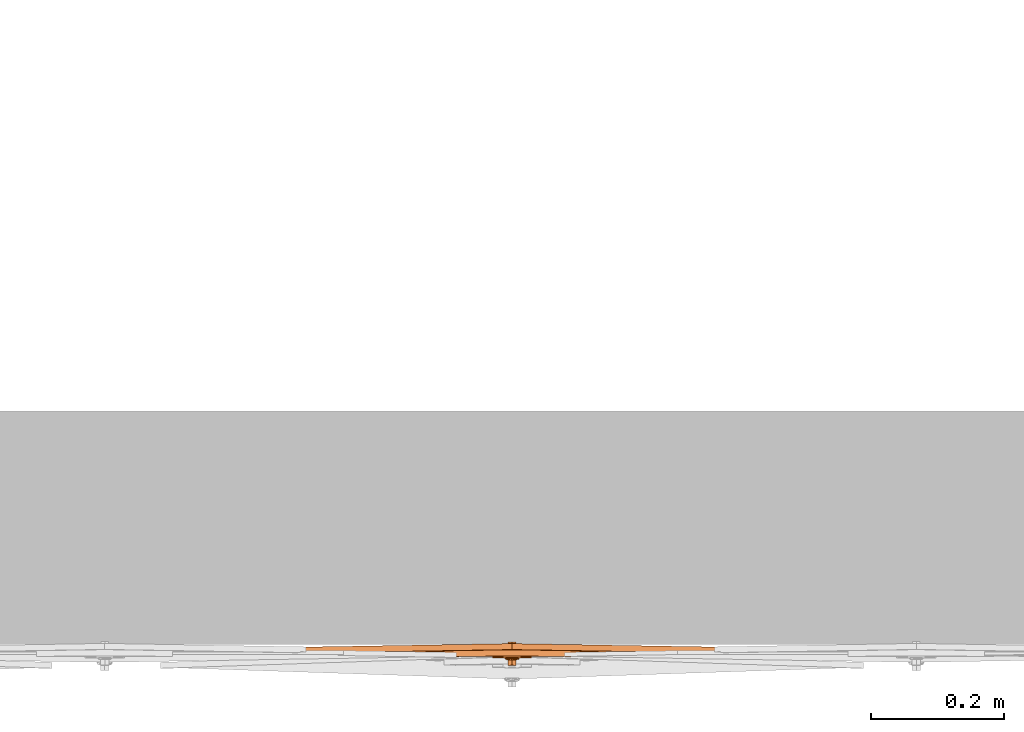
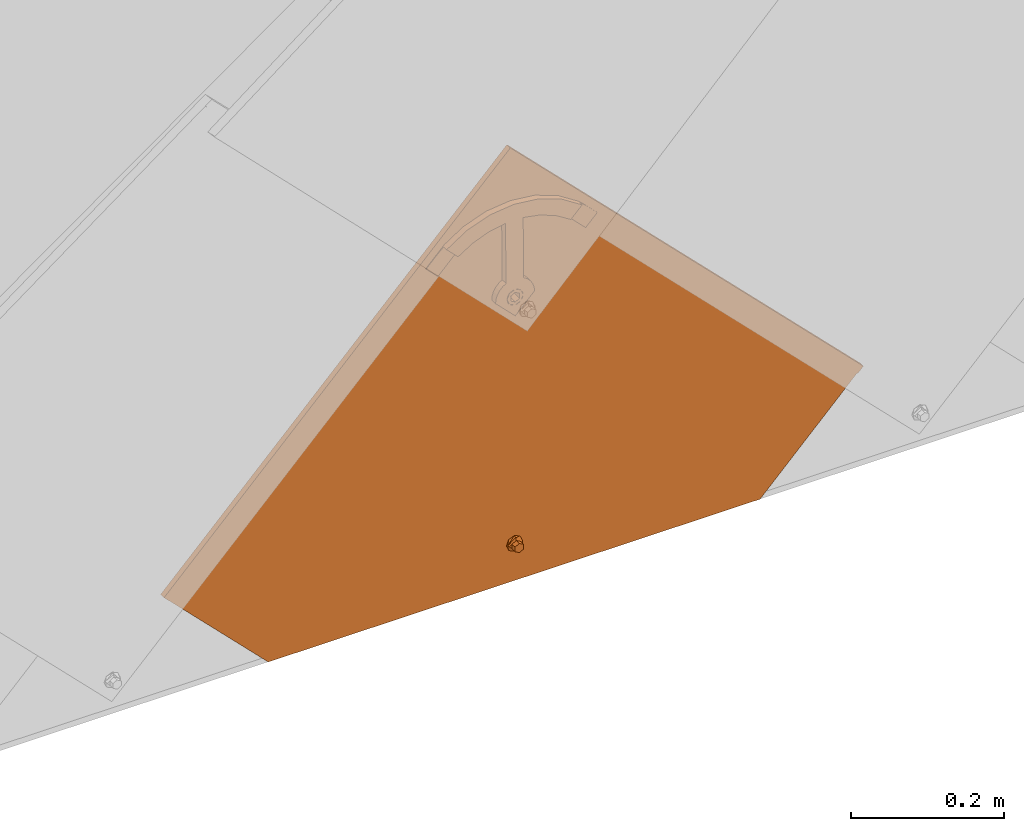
# One storey, part 5 of 151: 1 proxy.
"""IFC2X3 building model written with IfcOpenShell, lengths in millimetres."""

from ifc_helpers import new_model, entity, si_unit, converted_unit, derived_unit, direction, frame, origin, place, context, subcontext, project, spatial, faceted_brep, source, transform, mapped, material, material_list, type_object, type_shapes, element, save


model = new_model("IFC2X3")

# Units and contexts
model_context = context("Model", 3, precision=0.01, world=origin(), true_north=direction((6.12303176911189e-17, 1.0)))
body_context = subcontext(model_context, "Body", "Model", "MODEL_VIEW")
ifc_project = project(units=[si_unit("LENGTHUNIT", "METRE", prefix="MILLI"), si_unit("AREAUNIT", "SQUARE_METRE"), si_unit("VOLUMEUNIT", "CUBIC_METRE"), converted_unit("PLANEANGLEUNIT", "DEGREE", entity("IfcRatioMeasure", 0.0174532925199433), si_unit("PLANEANGLEUNIT", "RADIAN"), dimensions=[0, 0, 0, 0, 0, 0, 0]), si_unit("MASSUNIT", "GRAM", prefix="KILO"), derived_unit("MASSDENSITYUNIT", [(si_unit("MASSUNIT", "GRAM", prefix="KILO"), 1), (si_unit("LENGTHUNIT", "METRE"), -3)]), si_unit("TIMEUNIT", "SECOND"), si_unit("FREQUENCYUNIT", "HERTZ"), si_unit("THERMODYNAMICTEMPERATUREUNIT", "DEGREE_CELSIUS"), derived_unit("THERMALTRANSMITTANCEUNIT", [(si_unit("MASSUNIT", "GRAM", prefix="KILO"), 1), (si_unit("THERMODYNAMICTEMPERATUREUNIT", "KELVIN"), -1), (si_unit("TIMEUNIT", "SECOND"), -3)]), derived_unit("VOLUMETRICFLOWRATEUNIT", [(si_unit("LENGTHUNIT", "METRE"), 3), (si_unit("TIMEUNIT", "SECOND"), -1)]), si_unit("ELECTRICCURRENTUNIT", "AMPERE"), si_unit("ELECTRICVOLTAGEUNIT", "VOLT"), si_unit("POWERUNIT", "WATT"), si_unit("FORCEUNIT", "NEWTON", prefix="KILO"), si_unit("ILLUMINANCEUNIT", "LUX"), si_unit("LUMINOUSFLUXUNIT", "LUMEN"), si_unit("LUMINOUSINTENSITYUNIT", "CANDELA"), derived_unit("USERDEFINED", [(si_unit("MASSUNIT", "GRAM", prefix="KILO"), -1), (si_unit("LENGTHUNIT", "METRE"), -2), (si_unit("TIMEUNIT", "SECOND"), 3), (si_unit("LUMINOUSFLUXUNIT", "LUMEN"), 1)]), derived_unit("LINEARVELOCITYUNIT", [(si_unit("LENGTHUNIT", "METRE"), 1), (si_unit("TIMEUNIT", "SECOND"), -1)]), si_unit("PRESSUREUNIT", "PASCAL"), derived_unit("USERDEFINED", [(si_unit("LENGTHUNIT", "METRE"), -2), (si_unit("MASSUNIT", "GRAM", prefix="KILO"), 1), (si_unit("TIMEUNIT", "SECOND"), -2)])], contexts=[model_context])

# Site, building, storey
site_placement = place(None, origin())
site = spatial("IfcSite", under=ifc_project, at=site_placement, Name="Default", CompositionType="ELEMENT")
building_placement = place(site_placement, origin())
building = spatial("IfcBuilding", under=site, at=building_placement, CompositionType="ELEMENT")
storey_placement = place(building_placement, origin())
storey = spatial("IfcBuildingStorey", under=building, at=storey_placement, Name="Level 1", CompositionType="ELEMENT", Elevation=0.0)

# Proxy
ifc_material_1 = material(Name="Rubber - Sunstyle - Black")
ifc_material_2 = material(Name="Glass - Sunstyle - Tainted Terracotta")
ifc_material_list_1 = material_list([ifc_material_1, ifc_material_2])
ifc_material_list_2 = material_list([ifc_material_1, ifc_material_2])
building_element_proxy_type = type_object("IfcBuildingElementProxyType", Name="Shingle Bottom - Terracotta", PredefinedType="NOTDEFINED", material=ifc_material_list_2)
shared_shape = source(origin(), body_context, "Body", "Brep", [
    faceted_brep([(0.0, -1.79273515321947, -4.01619789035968), (-5.7742028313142, -5.12600528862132, -3.96037390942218), (-5.77420283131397, -4.75769619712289, 18.0314954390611), (0.0, -1.42442606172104, 17.9756714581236), (-5.77420283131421, -11.792545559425, -3.84872594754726), (-5.77420283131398, -11.4242364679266, 18.143143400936), (0.0, -15.1258156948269, -3.79290196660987), (0.0, -14.7575066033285, 18.1989673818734), (5.77420283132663, -11.7925455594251, -3.84872594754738), (5.77420283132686, -11.4242364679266, 18.1431434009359), (5.77420283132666, -5.12600528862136, -3.96037390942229), (5.77420283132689, -4.75769619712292, 18.031495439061), (-8.60370416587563, -16.6934641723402, 18.2313898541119), (0.0, -20.2567354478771, 18.2910657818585), (-12.1674751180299, -8.09096633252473, 18.0873194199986), (-8.60370416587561, 0.511531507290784, 17.9432489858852), (0.0, 4.07480278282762, 17.8835730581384), (8.60370416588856, 0.511531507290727, 17.9432489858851), (12.1674751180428, -8.09096633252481, 18.0873194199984), (8.60370416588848, -16.6934641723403, 18.2313898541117), (-11.4302228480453, -6.71737066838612, 20.4858706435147), (-9.77051349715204, -8.02009729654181, 22.3189355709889), (0.0, -0.706876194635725, 22.9603444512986), (0.0, 0.533621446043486, 22.3799978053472), (0.0, 2.69117229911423, 21.3706227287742), (-6.32324569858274, -4.35709193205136, 23.021476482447), (-6.32324569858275, -11.6575234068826, 23.1437405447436), (0.0, -18.7571148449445, 21.7298281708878), (0.0, -15.3077391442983, 23.2048725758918), (10.9851748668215, -11.808022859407, 20.3827540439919), (10.123850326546, -8.02413622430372, 22.0777687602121), (6.32324569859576, -4.3570919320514, 23.0214764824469), (6.32324569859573, -11.6575234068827, 23.1437405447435), (-6.32324569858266, -11.5234949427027, 31.146628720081), (0.0, -15.1737106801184, 31.2077607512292), (0.0, -7.8732792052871, 31.0854966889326), (-6.32324569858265, -4.22306346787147, 31.0243646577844), (6.32324569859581, -11.5234949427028, 31.1466287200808), (6.32324569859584, -4.22306346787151, 31.0243646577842), (0.0, -0.57284773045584, 30.963232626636), (0.0, -8.45927542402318, -3.90454992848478)], [[[0, 1, 2, 3]], [[1, 4, 5, 2]], [[4, 6, 7, 5]], [[6, 8, 9, 7]], [[8, 10, 11, 9]], [[10, 0, 3, 11]], [[12, 7, 13]], [[7, 12, 5]], [[14, 5, 12]], [[5, 14, 2]], [[15, 2, 14]], [[3, 2, 15]], [[15, 16, 3]], [[16, 17, 3]], [[11, 3, 17]], [[11, 17, 18]], [[9, 11, 18]], [[18, 19, 9]], [[7, 9, 19]], [[19, 13, 7]], [[15, 20, 16]], [[21, 22, 23, 24]], [[22, 21, 25]], [[20, 14, 12]], [[15, 14, 20]], [[25, 21, 26]], [[20, 24, 16]], [[12, 13, 27]], [[12, 27, 20]], [[21, 28, 26]], [[21, 27, 28]], [[20, 21, 24]], [[20, 27, 21]], [[19, 29, 13]], [[30, 23, 31]], [[30, 28, 27]], [[24, 23, 30]], [[29, 27, 13]], [[19, 18, 29]], [[29, 30, 27]], [[29, 17, 24]], [[24, 17, 16]], [[31, 32, 30]], [[23, 22, 31]], [[28, 30, 32]], [[29, 24, 30]], [[29, 18, 17]], [[33, 34, 35]], [[35, 36, 33]], [[34, 37, 35]], [[38, 35, 37]], [[35, 38, 39]], [[35, 39, 36]], [[40, 6, 4]], [[4, 1, 40]], [[1, 0, 40]], [[40, 8, 6]], [[0, 10, 40]], [[8, 40, 10]], [[22, 25, 36, 39]], [[25, 26, 33, 36]], [[26, 28, 34, 33]], [[28, 32, 37, 34]], [[32, 31, 38, 37]], [[31, 22, 39, 38]]]),
    faceted_brep([(0.0, 372.824876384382, 20.3195200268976), (0.0, 377.324245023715, 20.2441667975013), (-8.60370416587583, 376.388147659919, 20.2598440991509), (8.60370416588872, 376.388147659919, 20.2598440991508), (6.64022859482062, 381.157445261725, 20.1799702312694), (12.1674751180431, 384.990645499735, 20.1157736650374), (6.64022859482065, 388.823845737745, 20.0515770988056), (8.6037041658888, 393.59314333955, 19.9717032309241), (0.0, 392.657045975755, 19.9873805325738), (0.0, 397.156414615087, 19.9120273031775), (-8.60370416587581, 393.59314333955, 19.9717032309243), (-6.64022859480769, 388.823845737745, 20.0515770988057), (-12.1674751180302, 384.990645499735, 20.1157736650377), (-6.6402285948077, 381.157445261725, 20.1799702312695), (-6.6402282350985, 388.555922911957, 4.05382046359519), (0.0, 392.389122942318, 3.98962390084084), (-6.64022823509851, 380.889522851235, 4.18221358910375), (0.0, 377.056322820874, 4.24641015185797), (6.64022823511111, 380.889522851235, 4.18221358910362), (6.64022823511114, 388.555922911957, 4.05382046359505), (-8.603704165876, 376.12022504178, 4.26208746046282), (0.0, 372.556953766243, 4.32176338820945), (-12.1674751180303, 384.722722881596, 4.11801702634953), (-8.60370416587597, 393.325220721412, 3.97394659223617), (0.0, 396.888491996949, 3.91427066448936), (8.60370416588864, 393.325220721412, 3.97394659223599), (12.1674751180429, 384.722722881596, 4.11801702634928), (8.60370416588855, 376.12022504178, 4.26208746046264)], [[[0, 1, 2]], [[1, 0, 3]], [[3, 4, 1]], [[4, 3, 5]], [[6, 4, 5]], [[5, 7, 6]], [[7, 8, 6]], [[8, 7, 9]], [[8, 9, 10]], [[10, 11, 8]], [[12, 11, 10]], [[2, 13, 12]], [[12, 13, 11]], [[13, 2, 1]], [[8, 11, 14, 15]], [[11, 13, 16, 14]], [[13, 1, 17, 16]], [[1, 4, 18, 17]], [[4, 6, 19, 18]], [[6, 8, 15, 19]], [[20, 17, 21]], [[17, 20, 16]], [[22, 16, 20]], [[14, 16, 22]], [[23, 14, 22]], [[15, 14, 23]], [[23, 24, 15]], [[24, 25, 15]], [[19, 15, 25]], [[19, 25, 26]], [[26, 18, 19]], [[26, 27, 18]], [[17, 18, 27]], [[27, 21, 17]], [[24, 23, 10, 9]], [[10, 23, 22, 12]], [[20, 21, 0, 2]], [[20, 2, 12, 22]], [[21, 27, 3, 0]], [[3, 27, 26, 5]], [[25, 24, 9, 7]], [[25, 7, 5, 26]]]),
    faceted_brep([(518.247351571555, 79.9143812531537, 14.965257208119), (526.732038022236, 88.3990677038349, 14.8231598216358), (526.732038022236, 88.4241854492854, 16.3229495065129), (518.247351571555, 79.9394989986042, 16.4650468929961), (0.000322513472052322, 598.016093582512, 6.28834266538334), (-518.246706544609, 79.9143812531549, 14.9652572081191), (-526.73139299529, 88.3990677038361, 14.8231598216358), (0.000322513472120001, 614.983087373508, 6.00418773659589), (0.000322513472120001, 615.008205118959, 7.50397742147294), (-526.731392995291, 88.4241854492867, 16.3229495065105), (-518.246706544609, 79.9394989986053, 16.465046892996), (0.000322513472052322, 598.041211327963, 7.78813235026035)], [[[0, 1, 2, 3]], [[1, 0, 4, 5, 6, 7]], [[2, 1, 7, 8]], [[3, 2, 8, 9, 10, 11]], [[0, 3, 11, 4]], [[5, 10, 9, 6]], [[8, 7, 6, 9]], [[4, 11, 10, 5]]]),
    faceted_brep([(0.00032251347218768, 614.983087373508, 6.00418773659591), (-2.87802047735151, 396.187349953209, 9.66847193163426), (0.227808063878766, 396.596182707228, 9.6616250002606), (-5.77219193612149, 394.988712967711, 9.68854611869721), (3.3336366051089, 396.187349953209, 9.66847193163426), (6.22780806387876, 394.988712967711, 9.6885461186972), (8.71308943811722, 393.081956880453, 9.72047953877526), (10.620112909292, 390.59702396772, 9.76209598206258), (-8.25747331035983, 393.081956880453, 9.72047953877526), (-10.1644967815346, 390.59702396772, 9.76209598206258), (-11.3633018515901, 387.703258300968, 9.81055935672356), (-526.731392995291, 88.3990677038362, 14.8231598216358), (11.8189179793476, 387.703258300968, 9.81055935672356), (526.732038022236, 88.3990677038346, 14.8231598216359), (-11.7721919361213, 384.597865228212, 9.86256696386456), (-11.3633018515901, 381.492472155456, 9.91457457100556), (-10.1644967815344, 378.598706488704, 9.96303794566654), (-370.355016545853, -67.9334607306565, 17.4413406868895), (-8.25747331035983, 376.113773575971, 10.0046543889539), (-5.65685424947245, -2.29422365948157, 16.3420467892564), (-6.92820323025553, -3.95084560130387, 16.3697910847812), (-7.72740661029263, -5.88002271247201, 16.4021000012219), (-8.0, -7.95028476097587, 16.4367717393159), (-7.72740661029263, -10.0205468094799, 16.4714434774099), (-6.9282032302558, -11.9497239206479, 16.5037523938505), (-5.65685424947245, -13.6063458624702, 16.5314966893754), (-4.0, -14.8775165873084, 16.5527856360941), (-2.07055236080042, -15.676607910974, 16.5661684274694), (0.0, -15.9491630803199, 16.5707330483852), (370.355661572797, -67.9334607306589, 17.4413406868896), (10.620112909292, 378.598706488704, 9.96303794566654), (8.71308943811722, 376.11377357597, 10.0046543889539), (5.65685424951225, -2.29422365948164, 16.3420467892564), (6.92820323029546, -3.9508456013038, 16.3697910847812), (7.72740661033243, -5.88002271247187, 16.4021000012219), (8.0, -7.9502847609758, 16.4367717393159), (7.72740661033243, -10.0205468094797, 16.4714434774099), (6.92820323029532, -11.9497239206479, 16.5037523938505), (5.65685424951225, -13.6063458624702, 16.5314966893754), (4.0, -14.8775165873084, 16.5527856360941), (2.07055236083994, -15.676607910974, 16.5661684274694), (-5.77219193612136, 374.207017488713, 10.0365878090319), (-4.0, -1.02305293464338, 16.3207578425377), (-2.87802047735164, 373.008380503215, 10.0566619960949), (-2.07055236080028, -0.223961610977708, 16.3073750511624), (0.227808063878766, 372.599547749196, 10.0635089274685), (0.0, 0.0485935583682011, 16.3028104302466), (2.07055236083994, -0.223961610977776, 16.3073750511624), (3.3336366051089, 373.008380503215, 10.0566619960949), (4.0, -1.02305293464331, 16.3207578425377), (6.22780806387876, 374.207017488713, 10.0365878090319), (12.2278080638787, 384.597865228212, 9.86256696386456), (11.8189179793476, 381.492472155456, 9.91457457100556), (-370.355016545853, -68.059049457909, 9.94239226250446), (-6.92820323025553, -4.07643432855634, 8.87084266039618), (-7.72740661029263, -6.00561143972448, 8.90315157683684), (-8.0, -8.07587348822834, 8.93782331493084), (-7.72740661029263, -10.1461355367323, 8.97249505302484), (-6.9282032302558, -12.0753126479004, 9.00480396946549), (-5.65685424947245, -13.7319345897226, 9.03254826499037), (-5.65685424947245, -2.41981238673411, 8.8430983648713), (-8.25747331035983, 375.988184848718, 2.50570596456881), (-4.0, -15.0031053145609, 9.05383721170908), (-2.07055236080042, -15.8021966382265, 9.06722000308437), (0.0, -16.0747518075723, 9.07178462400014), (370.355661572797, -68.0590494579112, 9.9423922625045), (-10.1644967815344, 378.473117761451, 2.46408952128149), (-526.731392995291, 88.2734789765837, 7.32421139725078), (-11.3633018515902, 381.366883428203, 2.41562614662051), (-11.7721919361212, 384.472276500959, 2.36361853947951), (-11.3633018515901, 387.577669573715, 2.3116109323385), (0.00032251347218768, 614.857498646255, -1.49476068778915), (-10.1644967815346, 390.471435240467, 2.26314755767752), (-8.25747331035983, 392.956368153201, 2.22153111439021), (-5.77219193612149, 394.863124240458, 2.18959769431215), (-2.87802047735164, 396.061761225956, 2.16952350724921), (0.227808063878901, 396.470593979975, 2.16267657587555), (3.3336366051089, 396.061761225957, 2.1695235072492), (6.22780806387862, 394.863124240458, 2.18959769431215), (8.71308943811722, 392.956368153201, 2.2215311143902), (10.620112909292, 390.471435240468, 2.26314755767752), (11.8189179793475, 387.577669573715, 2.31161093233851), (526.732038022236, 88.2734789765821, 7.32421139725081), (12.2278080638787, 384.472276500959, 2.3636185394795), (10.620112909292, 378.473117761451, 2.46408952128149), (11.8189179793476, 381.366883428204, 2.41562614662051), (-5.77219193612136, 374.08142876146, 2.53763938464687), (-4.0, -1.14864166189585, 8.8218094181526), (-2.87802047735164, 372.882791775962, 2.55771357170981), (-2.07055236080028, -0.349550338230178, 8.8084266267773), (0.227808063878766, 372.473959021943, 2.56456050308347), (0.0, -0.0769951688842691, 8.80386200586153), (2.07055236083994, -0.349550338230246, 8.8084266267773), (3.3336366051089, 372.882791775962, 2.55771357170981), (4.0, -1.14864166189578, 8.8218094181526), (6.22780806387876, 374.081428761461, 2.53763938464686), (5.65685424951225, -2.41981238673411, 8.8430983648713), (8.71308943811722, 375.988184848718, 2.50570596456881), (6.92820323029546, -4.07643432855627, 8.87084266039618), (7.72740661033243, -6.00561143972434, 8.90315157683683), (8.0, -8.07587348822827, 8.93782331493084), (7.72740661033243, -10.1461355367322, 8.97249505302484), (6.92820323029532, -12.0753126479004, 9.00480396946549), (5.65685424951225, -13.7319345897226, 9.03254826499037), (4.0, -15.0031053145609, 9.05383721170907), (2.07055236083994, -15.8021966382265, 9.06722000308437)], [[[0, 1, 2]], [[1, 0, 3]], [[0, 2, 4]], [[4, 5, 0]], [[5, 6, 0]], [[0, 6, 7]], [[8, 3, 0]], [[9, 8, 0]], [[9, 0, 10]], [[10, 0, 11]], [[12, 0, 7]], [[12, 13, 0]], [[11, 14, 10]], [[14, 11, 15]], [[16, 15, 11]], [[11, 17, 16]], [[16, 17, 18]], [[19, 18, 17]], [[19, 17, 20]], [[20, 17, 21]], [[22, 21, 17]], [[22, 17, 23]], [[24, 23, 17]], [[17, 25, 24]], [[26, 25, 17]], [[27, 26, 17]], [[17, 28, 27]], [[28, 17, 29]], [[29, 13, 30]], [[29, 30, 31]], [[29, 31, 32]], [[32, 33, 29]], [[33, 34, 29]], [[35, 29, 34]], [[29, 35, 36]], [[36, 37, 29]], [[29, 37, 38]], [[38, 39, 29]], [[40, 28, 29]], [[39, 40, 29]], [[41, 18, 19]], [[42, 41, 19]], [[42, 43, 41]], [[44, 43, 42]], [[44, 45, 43]], [[46, 45, 44]], [[47, 45, 46]], [[48, 45, 47]], [[49, 48, 47]], [[49, 50, 48]], [[32, 50, 49]], [[32, 31, 50]], [[12, 51, 13]], [[52, 13, 51]], [[13, 52, 30]], [[53, 54, 55]], [[53, 55, 56]], [[56, 57, 53]], [[57, 58, 53]], [[53, 58, 59]], [[60, 54, 53]], [[61, 60, 53]], [[59, 62, 53]], [[62, 63, 53]], [[63, 64, 53]], [[53, 64, 65]], [[66, 61, 53]], [[66, 53, 67]], [[68, 66, 67]], [[69, 68, 67]], [[69, 67, 70]], [[67, 71, 70]], [[72, 70, 71]], [[73, 72, 71]], [[71, 74, 73]], [[74, 71, 75]], [[75, 71, 76]], [[77, 76, 71]], [[77, 71, 78]], [[79, 78, 71]], [[71, 80, 79]], [[80, 71, 81]], [[71, 82, 81]], [[83, 81, 82]], [[84, 82, 65]], [[85, 82, 84]], [[82, 85, 83]], [[86, 60, 61]], [[86, 87, 60]], [[88, 87, 86]], [[89, 87, 88]], [[90, 89, 88]], [[90, 91, 89]], [[92, 91, 90]], [[92, 90, 93]], [[94, 92, 93]], [[93, 95, 94]], [[94, 95, 96]], [[97, 96, 95]], [[96, 97, 65]], [[84, 65, 97]], [[98, 96, 65]], [[99, 98, 65]], [[99, 65, 100]], [[101, 100, 65]], [[102, 101, 65]], [[103, 102, 65]], [[104, 103, 65]], [[105, 104, 65]], [[65, 64, 105]], [[11, 0, 71, 67]], [[17, 11, 67, 53]], [[13, 29, 65, 82]], [[0, 13, 82, 71]], [[22, 56, 55, 21]], [[21, 55, 54, 20]], [[42, 19, 60, 87]], [[60, 19, 20, 54]], [[44, 42, 87, 89]], [[44, 89, 91, 46]], [[46, 91, 92, 47]], [[47, 92, 94, 49]], [[33, 32, 96, 98]], [[96, 32, 49, 94]], [[34, 33, 98, 99]], [[34, 99, 100, 35]], [[35, 100, 101, 36]], [[36, 101, 102, 37]], [[39, 38, 103, 104]], [[103, 38, 37, 102]], [[40, 39, 104, 105]], [[40, 105, 64, 28]], [[28, 64, 63, 27]], [[27, 63, 62, 26]], [[24, 25, 59, 58]], [[59, 25, 26, 62]], [[23, 24, 58, 57]], [[23, 57, 56, 22]], [[14, 69, 70, 10]], [[10, 70, 72, 9]], [[3, 8, 73, 74]], [[73, 8, 9, 72]], [[1, 3, 74, 75]], [[1, 75, 76, 2]], [[2, 76, 77, 4]], [[4, 77, 78, 5]], [[7, 6, 79, 80]], [[79, 6, 5, 78]], [[12, 7, 80, 81]], [[12, 81, 83, 51]], [[51, 83, 85, 52]], [[52, 85, 84, 30]], [[50, 31, 97, 95]], [[97, 31, 30, 84]], [[48, 50, 95, 93]], [[48, 93, 90, 45]], [[45, 90, 88, 43]], [[43, 88, 86, 41]], [[16, 18, 61, 66]], [[41, 86, 61, 18]], [[68, 15, 16, 66]], [[15, 68, 69, 14]], [[29, 17, 53, 65]]]),
    faceted_brep([(-111.269043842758, 451.472531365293, 11.2429332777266), (-84.9443960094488, 477.793488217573, 10.8021227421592), (-102.027571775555, 494.874268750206, 10.5160621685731), (-108.279973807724, 489.512620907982, 10.6058564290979), (-114.2509690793, 483.839345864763, 10.7008696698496), (-128.946713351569, 469.147722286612, 10.9469178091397), (128.946713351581, 469.147722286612, 10.9469178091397), (114.250969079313, 483.839345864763, 10.7008696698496), (108.279973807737, 489.512620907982, 10.6058564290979), (102.027571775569, 494.874268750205, 10.5160621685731), (84.9431983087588, 477.794685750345, 10.802102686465), (111.269043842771, 451.472531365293, 11.2429332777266), (-8.48528137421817, 393.302959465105, 19.7181805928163), (-18.7041061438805, 407.484939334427, 19.4806677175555), (-23.2046504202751, 402.851933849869, 19.5582590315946), (-10.3923048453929, 390.818026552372, 19.7597970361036), (-6.0, 395.209715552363, 19.6862471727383), (-13.2999999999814, 411.02298750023, 19.4214142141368), (-3.10582854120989, 396.408352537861, 19.6661729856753), (0.0, 396.81718529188, 19.6593260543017), (13.3000000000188, 411.022987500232, 19.4214142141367), (3.10582854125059, 396.408352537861, 19.6661729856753), (6.0, 395.209715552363, 19.6862471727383), (18.7041061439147, 407.484939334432, 19.4806677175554), (8.48528137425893, 393.302959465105, 19.7181805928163), (23.2046504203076, 402.85193384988, 19.5582590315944), (10.3923048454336, 390.818026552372, 19.7597970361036), (26.5842195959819, 397.347783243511, 19.6504398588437), (11.5911099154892, 387.92426088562, 19.8082604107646), (28.6795527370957, 391.238383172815, 19.752757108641), (12.0, 384.818867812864, 19.8602680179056), (29.3894280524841, 384.818867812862, 19.8602680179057), (11.5911099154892, 381.713474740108, 19.9122756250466), (10.3923048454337, 378.819709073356, 19.9607389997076), (8.48528137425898, 376.334776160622, 20.0023554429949), (0.0, 355.433560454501, 20.3523987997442), (6.0, 374.428020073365, 20.034288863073), (3.10582854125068, 373.229383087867, 20.0543630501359), (0.0, 372.820550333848, 20.0612099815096), (-3.10582854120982, 373.229383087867, 20.0543630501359), (-6.0, 374.428020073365, 20.034288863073), (-8.48528137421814, 376.334776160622, 20.0023554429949), (-29.3894280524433, 384.818867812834, 19.8602680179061), (-10.3923048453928, 378.819709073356, 19.9607389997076), (-11.5911099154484, 381.713474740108, 19.9122756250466), (-12.0, 384.818867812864, 19.8602680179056), (-28.67955273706, 391.238383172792, 19.7527571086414), (-11.5911099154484, 387.92426088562, 19.8082604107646), (-26.5842195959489, 397.347783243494, 19.650439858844), (-13.2999999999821, 505.810987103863, 17.833951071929), (13.3000000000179, 505.810987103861, 17.833951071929), (0.0, 531.282600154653, 17.4073649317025), (36.4908407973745, 527.108634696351, 17.4772684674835), (38.7697427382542, 500.996106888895, 17.9145883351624), (71.096085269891, 514.802420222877, 17.6833669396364), (62.9243331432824, 491.592473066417, 18.0720758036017), (102.027571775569, 494.999857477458, 18.0150105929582), (84.9443960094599, 477.919076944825, 18.3010711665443), (-36.4908407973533, 527.108634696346, 17.4772684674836), (-38.7697427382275, 500.996106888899, 17.9145883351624), (-71.0960852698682, 514.802420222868, 17.6833669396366), (-62.9243331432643, 491.592473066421, 18.0720758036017), (-102.027571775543, 494.999857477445, 18.0150105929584), (-84.9443960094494, 477.919076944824, 18.3010711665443), (0.0, 355.266108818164, 10.3538009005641), (0.0, 372.653098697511, 10.0626120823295), (3.10582854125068, 373.06193145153, 10.0557651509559), (-3.10582854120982, 373.06193145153, 10.0557651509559), (6.0, 374.260568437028, 10.0356909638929), (8.48528137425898, 376.167324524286, 10.0037575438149), (29.3894280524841, 384.651416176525, 9.86167011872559), (-6.0, 374.260568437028, 10.0356909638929), (-8.48528137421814, 376.167324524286, 10.0037575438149), (-29.3894280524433, 384.651416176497, 9.86167011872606), (-10.3923048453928, 378.652257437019, 9.96214110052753), (-11.5911099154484, 381.546023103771, 9.91367772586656), (-12.0, 384.651416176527, 9.86167011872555), (-28.67955273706, 391.070931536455, 9.75415920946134), (-11.5911099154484, 387.756809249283, 9.80966251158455), (-26.5842195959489, 397.180331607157, 9.65184195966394), (-10.3923048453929, 390.650574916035, 9.76119913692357), (-23.2046504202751, 402.684482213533, 9.5596611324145), (-8.48528137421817, 393.135507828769, 9.71958269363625), (-18.7041061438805, 407.31748769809, 9.48206981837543), (-6.0, 395.042263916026, 9.6876492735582), (-13.2999999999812, 410.855535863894, 9.4228163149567), (-3.10582854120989, 396.240900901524, 9.66757508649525), (0.0, 396.649733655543, 9.66072815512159), (13.3000000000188, 410.855535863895, 9.42281631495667), (-13.2999999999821, 505.643535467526, 7.83535317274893), (13.3000000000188, 505.643535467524, 7.83535317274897), (0.0, 531.115148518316, 7.4087670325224), (-36.4908407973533, 526.94118306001, 7.47867056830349), (-38.7697427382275, 500.828655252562, 7.91599043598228), (-71.0960852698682, 514.634968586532, 7.68476904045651), (-62.9243331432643, 491.425021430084, 8.07347790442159), (-102.027571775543, 494.832405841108, 8.01641269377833), (-84.9431983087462, 477.752822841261, 8.30245321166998), (-108.279973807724, 489.470757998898, 8.10620695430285), (-114.2509690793, 483.79748295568, 8.2012201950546), (-111.269043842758, 451.430668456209, 8.74328380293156), (-128.946713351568, 469.105859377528, 8.44726833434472), (36.4908407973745, 526.941183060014, 7.47867056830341), (38.7697427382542, 500.828655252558, 7.91599043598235), (71.096085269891, 514.634968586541, 7.68476904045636), (62.9243331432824, 491.425021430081, 8.07347790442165), (102.027571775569, 494.832405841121, 8.01641269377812), (84.9443960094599, 477.751625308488, 8.30247326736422), (108.279973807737, 489.470757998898, 8.10620695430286), (114.250969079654, 483.797482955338, 8.20122019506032), (111.269043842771, 451.430668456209, 8.74328380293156), (128.946713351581, 469.105859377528, 8.44726833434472), (3.10582854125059, 396.240900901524, 9.66757508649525), (6.0, 395.042263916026, 9.6876492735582), (18.7041061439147, 407.317487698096, 9.48206981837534), (8.48528137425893, 393.135507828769, 9.71958269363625), (23.2046504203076, 402.684482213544, 9.55966113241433), (10.3923048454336, 390.650574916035, 9.76119913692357), (26.5842195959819, 397.180331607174, 9.65184195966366), (11.5911099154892, 387.756809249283, 9.80966251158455), (28.6795527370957, 391.070931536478, 9.75415920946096), (12.0, 384.651416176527, 9.86167011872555), (11.5911099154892, 381.546023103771, 9.91367772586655), (10.3923048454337, 378.652257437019, 9.96214110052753)], [[[0, 1, 2, 3, 4, 5]], [[6, 7, 8, 9, 10, 11]], [[12, 13, 14]], [[15, 12, 14]], [[16, 13, 12]], [[13, 16, 17]], [[17, 16, 18]], [[18, 19, 17]], [[20, 17, 19]], [[19, 21, 20]], [[22, 20, 21]], [[22, 23, 20]], [[22, 24, 23]], [[25, 23, 24]], [[26, 25, 24]], [[25, 26, 27]], [[26, 28, 27]], [[29, 27, 28]], [[28, 30, 29]], [[31, 29, 30]], [[30, 32, 31]], [[32, 33, 31]], [[31, 33, 34]], [[34, 35, 31]], [[34, 36, 35]], [[37, 35, 36]], [[38, 35, 37]], [[35, 38, 39]], [[40, 35, 39]], [[40, 41, 35]], [[42, 35, 41]], [[43, 42, 41]], [[43, 44, 42]], [[44, 45, 42]], [[45, 46, 42]], [[46, 45, 47]], [[48, 46, 47]], [[47, 15, 48]], [[48, 15, 14]], [[20, 49, 17]], [[49, 20, 50]], [[51, 49, 50]], [[50, 52, 51]], [[53, 52, 50]], [[52, 53, 54]], [[55, 54, 53]], [[54, 55, 56]], [[55, 57, 56]], [[58, 49, 51]], [[49, 58, 59]], [[60, 59, 58]], [[60, 61, 59]], [[61, 60, 62]], [[61, 62, 63]], [[64, 65, 66]], [[65, 64, 67]], [[64, 66, 68]], [[68, 69, 64]], [[64, 69, 70]], [[71, 67, 64]], [[71, 64, 72]], [[72, 64, 73]], [[73, 74, 72]], [[74, 73, 75]], [[76, 75, 73]], [[77, 76, 73]], [[76, 77, 78]], [[78, 77, 79]], [[80, 78, 79]], [[81, 80, 79]], [[82, 80, 81]], [[81, 83, 82]], [[83, 84, 82]], [[84, 83, 85]], [[85, 86, 84]], [[87, 86, 85]], [[87, 85, 88]], [[88, 85, 89]], [[88, 89, 90]], [[89, 91, 90]], [[91, 89, 92]], [[93, 92, 89]], [[94, 92, 93]], [[93, 95, 94]], [[95, 96, 94]], [[97, 96, 95]], [[98, 96, 97]], [[99, 98, 97]], [[97, 100, 99]], [[101, 99, 100]], [[102, 90, 91]], [[90, 102, 103]], [[104, 103, 102]], [[103, 104, 105]], [[105, 104, 106]], [[107, 105, 106]], [[107, 106, 108]], [[109, 107, 108]], [[110, 107, 109]], [[111, 110, 109]], [[87, 88, 112]], [[113, 112, 88]], [[114, 113, 88]], [[115, 113, 114]], [[115, 114, 116]], [[116, 117, 115]], [[116, 118, 117]], [[117, 118, 119]], [[119, 118, 120]], [[121, 119, 120]], [[120, 70, 121]], [[122, 121, 70]], [[70, 69, 123]], [[123, 122, 70]], [[17, 49, 89, 85]], [[13, 17, 85, 83]], [[14, 13, 83, 81]], [[81, 79, 48, 14]], [[46, 48, 79, 77]], [[42, 46, 77, 73]], [[35, 42, 73, 64]], [[31, 35, 64, 70]], [[29, 31, 70, 120]], [[27, 29, 120, 118]], [[118, 116, 25, 27]], [[23, 25, 116, 114]], [[20, 23, 114, 88]], [[50, 20, 88, 90]], [[9, 106, 104, 54, 56]], [[52, 54, 104, 102]], [[51, 52, 102, 91]], [[58, 51, 91, 92]], [[94, 96, 2, 62, 60]], [[60, 58, 92, 94]], [[45, 76, 78, 47]], [[47, 78, 80, 15]], [[16, 12, 82, 84]], [[80, 82, 12, 15]], [[18, 16, 84, 86]], [[87, 19, 18, 86]], [[21, 112, 113, 22]], [[22, 113, 115, 24]], [[28, 26, 117, 119]], [[115, 117, 26, 24]], [[30, 28, 119, 121]], [[21, 19, 87, 112]], [[30, 121, 122, 32]], [[32, 122, 123, 33]], [[36, 34, 69, 68]], [[123, 69, 34, 33]], [[37, 36, 68, 66]], [[65, 38, 37, 66]], [[39, 67, 71, 40]], [[40, 71, 72, 41]], [[44, 43, 74, 75]], [[72, 74, 43, 41]], [[45, 44, 75, 76]], [[39, 38, 65, 67]], [[7, 6, 111, 109]], [[6, 11, 110, 111]], [[7, 109, 108, 8]], [[108, 106, 9, 8]], [[11, 10, 107, 110]], [[0, 5, 101, 100]], [[1, 0, 100, 97]], [[2, 96, 98, 3]], [[98, 99, 4, 3]], [[5, 4, 99, 101]], [[63, 62, 2, 1]], [[56, 57, 10]], [[10, 9, 56]], [[1, 95, 61, 63]], [[1, 97, 95]], [[93, 89, 49, 59]], [[95, 93, 59, 61]], [[90, 103, 53, 50]], [[103, 105, 55, 53]], [[10, 57, 55]], [[107, 10, 105]], [[55, 105, 10]]]),
])
type_shapes(building_element_proxy_type, [shared_shape])
proxy_placement = place(storey_placement, frame((-12481.010390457, -13191.873651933, 308.325113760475), z_axis=(0.0, -1.0, 0.0), x_axis=(1.0, 0.0, 0.0)))
element("IfcBuildingElementProxy", 1, at=proxy_placement, inside=storey, type_object=building_element_proxy_type, material=ifc_material_list_1, Name="Roofing_Panels_SunStyle_Tile_Shingle-Bottom:Shingle Bottom - Terracotta", ObjectType="Roofing_Panels_SunStyle_Tile_Shingle-Bottom:Shingle Bottom - Terracotta", context=body_context, shape_type="MappedRepresentation", body=[
    mapped(shared_shape, transform((0.0, 0.0, 0.0), scale=1.0)),
])

save(model, "model.ifc")
